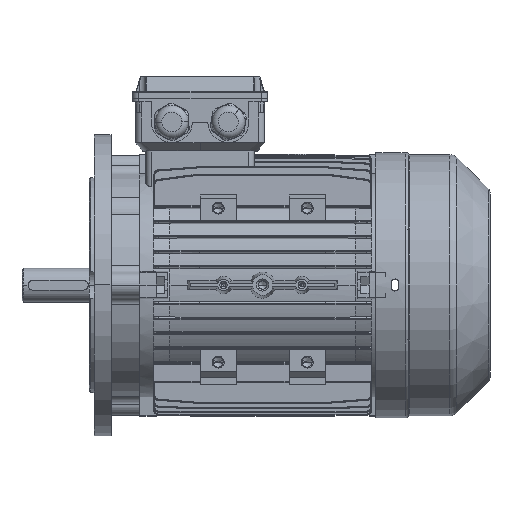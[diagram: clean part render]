
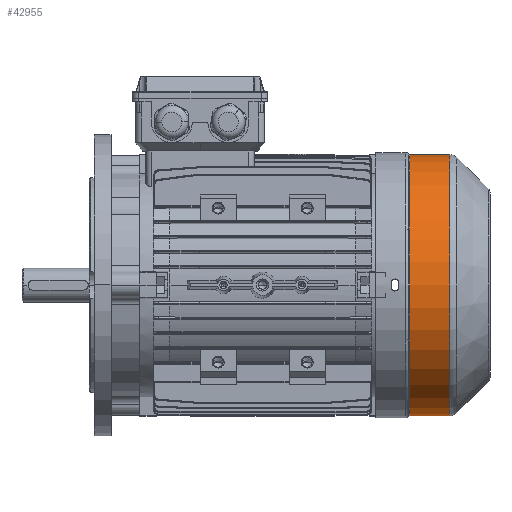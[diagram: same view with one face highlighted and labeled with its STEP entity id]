
A CAD part, top view. The second image highlights one B-rep face of the part: STEP entity #42955.
In plain terms, the highlighted cylindrical face has radius 108.5 mm (diameter 217 mm), a partial arc.
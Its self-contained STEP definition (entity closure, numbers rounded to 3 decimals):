
#39261 = EDGE_LOOP ( 'NONE', ( #42952, #43042, #43069, #43072 ) ) ;
#39641 = EDGE_CURVE ( 'NONE', #39703, #39661, #94013, .T. ) ;
#39661 = VERTEX_POINT ( 'NONE', #94012 ) ;
#39703 = VERTEX_POINT ( 'NONE', #94071 ) ;
#40497 = VERTEX_POINT ( 'NONE', #95100 ) ;
#40532 = VERTEX_POINT ( 'NONE', #95272 ) ;
#40963 = EDGE_CURVE ( 'NONE', #39703, #40497, #96079, .T. ) ;
#41048 = EDGE_CURVE ( 'NONE', #39661, #40532, #96227, .T. ) ;
#42952 = ORIENTED_EDGE ( 'NONE', *, *, #40963, .F. ) ;
#42955 = ADVANCED_FACE ( 'NONE', ( #98414 ), #98957, .T. ) ;
#43038 = EDGE_CURVE ( 'NONE', #40532, #40497, #99524, .T. ) ;
#43042 = ORIENTED_EDGE ( 'NONE', *, *, #39641, .T. ) ;
#43069 = ORIENTED_EDGE ( 'NONE', *, *, #41048, .T. ) ;
#43072 = ORIENTED_EDGE ( 'NONE', *, *, #43038, .T. ) ;
#94000 = DIRECTION ( 'NONE',  ( 0., -1., 0. ) ) ;
#94001 = DIRECTION ( 'NONE',  ( -1., 0., 0. ) ) ;
#94002 = CARTESIAN_POINT ( 'NONE',  ( -28.164, 0., 0. ) ) ;
#94003 = AXIS2_PLACEMENT_3D ( 'NONE', #94002, #94001, #94000 ) ;
#94012 = CARTESIAN_POINT ( 'NONE',  ( -28.164, -108.5, 0. ) ) ;
#94013 = CIRCLE ( 'NONE', #94003, 108.5 ) ;
#94071 = CARTESIAN_POINT ( 'NONE',  ( -28.164, 108.5, 0. ) ) ;
#95100 = CARTESIAN_POINT ( 'NONE',  ( -61.699, 108.5, 0. ) ) ;
#95272 = CARTESIAN_POINT ( 'NONE',  ( -61.699, -108.5, 0. ) ) ;
#96075 = DIRECTION ( 'NONE',  ( -1., 0., 0. ) ) ;
#96076 = VECTOR ( 'NONE', #96075, 1000. ) ;
#96078 = CARTESIAN_POINT ( 'NONE',  ( -92., 108.5, 0. ) ) ;
#96079 = LINE ( 'NONE', #96078, #96076 ) ;
#96227 = LINE ( 'NONE', #96298, #96290 ) ;
#96289 = DIRECTION ( 'NONE',  ( -1., 0., 0. ) ) ;
#96290 = VECTOR ( 'NONE', #96289, 1000. ) ;
#96298 = CARTESIAN_POINT ( 'NONE',  ( -92., -108.5, 0. ) ) ;
#98414 = FACE_OUTER_BOUND ( 'NONE', #39261, .T. ) ;
#98937 = DIRECTION ( 'NONE',  ( 0., -1., 0. ) ) ;
#98940 = DIRECTION ( 'NONE',  ( -1., 0., 0. ) ) ;
#98941 = CARTESIAN_POINT ( 'NONE',  ( -92., 0., 0. ) ) ;
#98956 = AXIS2_PLACEMENT_3D ( 'NONE', #98941, #98940, #98937 ) ;
#98957 = CYLINDRICAL_SURFACE ( 'NONE', #98956, 108.5 ) ;
#99505 = CARTESIAN_POINT ( 'NONE',  ( -61.699, 0., 0. ) ) ;
#99506 = DIRECTION ( 'NONE',  ( 1., 0., 0. ) ) ;
#99519 = DIRECTION ( 'NONE',  ( 0., 1., 0. ) ) ;
#99524 = CIRCLE ( 'NONE', #99574, 108.5 ) ;
#99574 = AXIS2_PLACEMENT_3D ( 'NONE', #99505, #99506, #99519 ) ;
